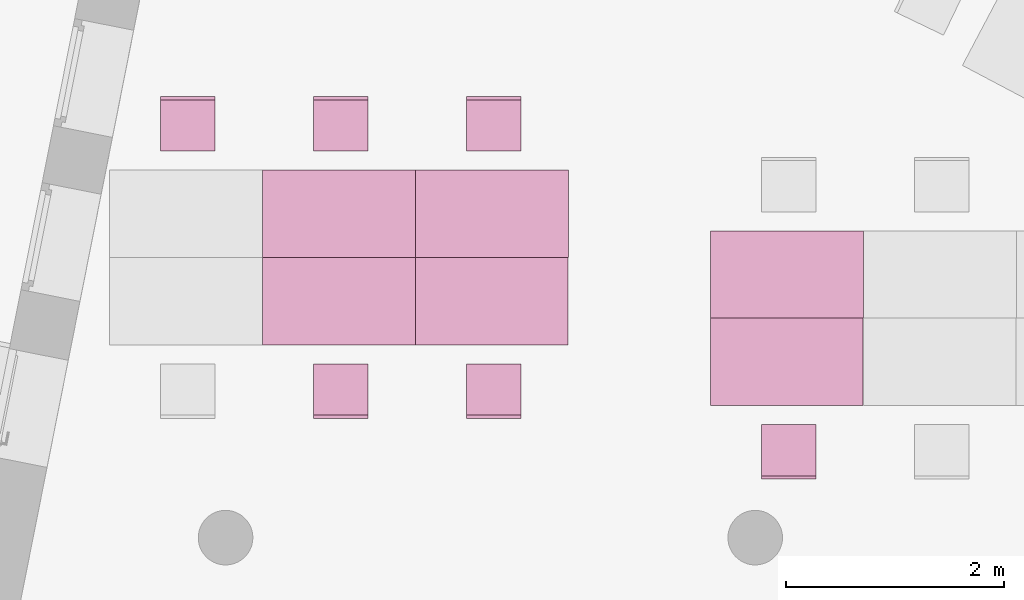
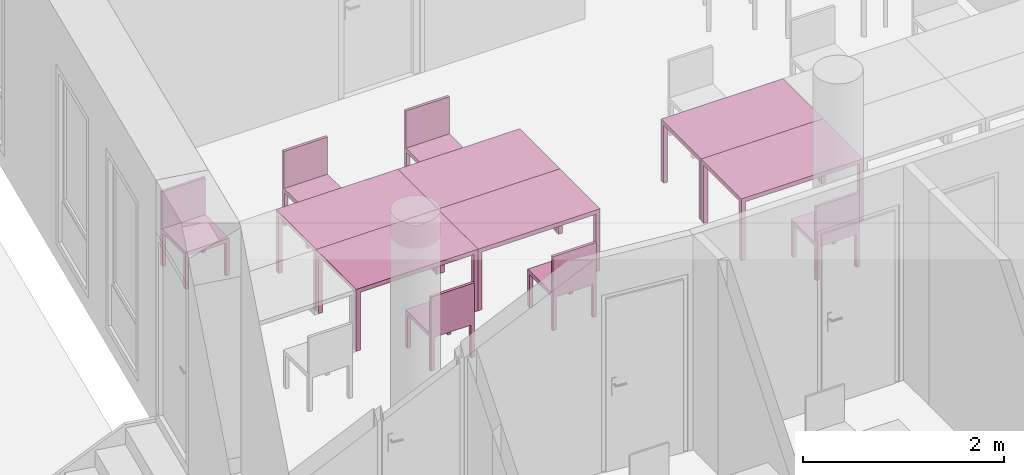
"""IFC4 building model written with IfcOpenShell, lengths in metres."""

from ifc_helpers import new_model, entity, si_unit, converted_unit, derived_unit, frame, origin, place, context, subcontext, project, spatial, faceted_brep, element, save


model = new_model("IFC4")

# Units and contexts
model_context = context("Model", 3, precision=1e-05, world=origin())
body_context = subcontext(model_context, "Body", "Model", "MODEL_VIEW")
ifc_project = project(units=[si_unit("LENGTHUNIT", "METRE"), si_unit("AREAUNIT", "SQUARE_METRE"), si_unit("VOLUMEUNIT", "CUBIC_METRE"), si_unit("MASSUNIT", "GRAM", prefix="KILO"), converted_unit("PLANEANGLEUNIT", "DEGREE", entity("IfcPlaneAngleMeasure", 0.0174532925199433), si_unit("PLANEANGLEUNIT", "RADIAN"), dimensions=[0, 0, 0, 0, 0, 0, 0]), derived_unit("THERMALTRANSMITTANCEUNIT", [(si_unit("POWERUNIT", "WATT"), 1), (si_unit("THERMODYNAMICTEMPERATUREUNIT", "KELVIN"), -1), (si_unit("LENGTHUNIT", "METRE"), -2)]), derived_unit("VOLUMETRICFLOWRATEUNIT", [(si_unit("LENGTHUNIT", "METRE"), 3), (converted_unit("TIMEUNIT", "hour", entity("IfcTimeMeasure", 3600.0), si_unit("TIMEUNIT", "SECOND"), dimensions=[0, 0, 1, 0, 0, 0, 0]), -1), (si_unit("LENGTHUNIT", "METRE"), -1)])], contexts=[model_context])

# Building, storeys
building_placement = place(None, origin())
building = spatial("IfcBuilding", under=ifc_project, at=building_placement, Name="HABITATGE PLURIFAMILIAR", CompositionType="ELEMENT")
storey_1_placement = place(building_placement, frame((0.0, 0.0, 6.25)))
storey_1 = spatial("IfcBuildingStorey", under=building, at=storey_1_placement, Name="PLANTA PRIMERA", CompositionType="ELEMENT", Elevation=6.25)
storey_2_placement = place(storey_1_placement, frame((0.0, 0.0, 3.35)))
storey_2 = spatial("IfcBuildingStorey", under=storey_1, at=storey_2_placement, Name="NOU", CompositionType="PARTIAL")

# Furniture
furniture_1_placement = place(storey_2_placement, frame((402.72705878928, 20.3649300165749, -3.35)))
element("IfcFurniture", 1, at=furniture_1_placement, inside=storey_2, Name="Taula 140X80_P1", context=body_context, shape_type="Brep", body=[
    faceted_brep([(1.40000000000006, 0.05, 0.0), (1.35357142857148, 0.05, 0.0), (1.35357142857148, 0.0, 0.0), (1.40000000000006, 0.0, 0.0), (1.40000000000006, 0.0, 0.7), (1.35357142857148, 0.0, 0.7), (1.35357142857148, 0.05, 0.7), (1.40000000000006, 0.05, 0.7)], [[[0, 1, 2, 3]], [[4, 5, 6, 7]], [[3, 4, 7, 0]], [[2, 5, 4, 3]], [[1, 6, 5, 2]], [[0, 7, 6, 1]]], orient=[[False], [False], [False], [False], [False], [False]]),
    faceted_brep([(1.40000000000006, 0.800069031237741, 0.0), (1.35357142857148, 0.800069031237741, 0.0), (1.35357142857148, 0.750069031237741, 0.0), (1.40000000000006, 0.750069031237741, 0.0), (1.40000000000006, 0.750069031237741, 0.7), (1.35357142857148, 0.750069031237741, 0.7), (1.35357142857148, 0.800069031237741, 0.7), (1.40000000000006, 0.800069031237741, 0.7)], [[[0, 1, 2, 3]], [[4, 5, 6, 7]], [[3, 4, 7, 0]], [[2, 5, 4, 3]], [[1, 6, 5, 2]], [[0, 7, 6, 1]]], orient=[[False], [False], [False], [False], [False], [False]]),
    faceted_brep([(1.4, 0.800069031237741, 0.7), (0.0, 0.800069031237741, 0.7), (0.0, 0.0, 0.7), (1.4, 0.0, 0.7), (1.4, 0.0, 0.75), (0.0, 0.0, 0.75), (0.0, 0.800069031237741, 0.75), (1.4, 0.800069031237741, 0.75)], [[[0, 1, 2, 3]], [[4, 5, 6, 7]], [[3, 4, 7, 0]], [[2, 5, 4, 3]], [[1, 6, 5, 2]], [[0, 7, 6, 1]]], orient=[[False], [False], [False], [False], [False], [False]]),
    faceted_brep([(0.0464285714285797, 0.05, 0.0), (0.0, 0.05, 0.0), (0.0, 0.0, 0.0), (0.0464285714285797, 0.0, 0.0), (0.0464285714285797, 0.0, 0.7), (0.0, 0.0, 0.7), (0.0, 0.05, 0.7), (0.0464285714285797, 0.05, 0.7)], [[[0, 1, 2, 3]], [[4, 5, 6, 7]], [[3, 4, 7, 0]], [[2, 5, 4, 3]], [[1, 6, 5, 2]], [[0, 7, 6, 1]]], orient=[[False], [False], [False], [False], [False], [False]]),
    faceted_brep([(0.0464285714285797, 0.800069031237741, 0.0), (0.0, 0.800069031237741, 0.0), (0.0, 0.750069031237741, 0.0), (0.0464285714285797, 0.750069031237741, 0.0), (0.0464285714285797, 0.750069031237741, 0.7), (0.0, 0.750069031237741, 0.7), (0.0, 0.800069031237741, 0.7), (0.0464285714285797, 0.800069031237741, 0.7)], [[[0, 1, 2, 3]], [[4, 5, 6, 7]], [[3, 4, 7, 0]], [[2, 5, 4, 3]], [[1, 6, 5, 2]], [[0, 7, 6, 1]]], orient=[[False], [False], [False], [False], [False], [False]]),
])
furniture_2_placement = place(storey_2_placement, frame((401.326989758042, 20.3649300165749, -3.35)))
element("IfcFurniture", 2, at=furniture_2_placement, inside=storey_2, Name="Taula 140X80_P1", context=body_context, shape_type="Brep", body=[
    faceted_brep([(1.40000000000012, 0.05, 0.0), (1.35357142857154, 0.05, 0.0), (1.35357142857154, 0.0, 0.0), (1.40000000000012, 0.0, 0.0), (1.40000000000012, 0.0, 0.7), (1.35357142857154, 0.0, 0.7), (1.35357142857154, 0.05, 0.7), (1.40000000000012, 0.05, 0.7)], [[[0, 1, 2, 3]], [[4, 5, 6, 7]], [[3, 4, 7, 0]], [[2, 5, 4, 3]], [[1, 6, 5, 2]], [[0, 7, 6, 1]]], orient=[[False], [False], [False], [False], [False], [False]]),
    faceted_brep([(1.40000000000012, 0.800069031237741, 0.0), (1.35357142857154, 0.800069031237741, 0.0), (1.35357142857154, 0.750069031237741, 0.0), (1.40000000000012, 0.750069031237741, 0.0), (1.40000000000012, 0.750069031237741, 0.7), (1.35357142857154, 0.750069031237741, 0.7), (1.35357142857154, 0.800069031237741, 0.7), (1.40000000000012, 0.800069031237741, 0.7)], [[[0, 1, 2, 3]], [[4, 5, 6, 7]], [[3, 4, 7, 0]], [[2, 5, 4, 3]], [[1, 6, 5, 2]], [[0, 7, 6, 1]]], orient=[[False], [False], [False], [False], [False], [False]]),
    faceted_brep([(1.40000000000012, 0.800069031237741, 0.7), (0.0, 0.800069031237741, 0.7), (0.0, 0.0, 0.7), (1.40000000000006, 0.0, 0.7), (1.40000000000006, 0.0, 0.75), (0.0, 0.0, 0.75), (0.0, 0.800069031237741, 0.75), (1.40000000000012, 0.800069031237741, 0.75)], [[[0, 1, 2, 3]], [[4, 5, 6, 7]], [[3, 4, 7, 0]], [[2, 5, 4, 3]], [[1, 6, 5, 2]], [[0, 7, 6, 1]]], orient=[[False], [False], [False], [False], [False], [False]]),
    faceted_brep([(0.046428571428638, 0.05, 0.0), (0.0, 0.05, 0.0), (0.0, 0.0, 0.0), (0.046428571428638, 0.0, 0.0), (0.046428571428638, 0.0, 0.7), (0.0, 0.0, 0.7), (0.0, 0.05, 0.7), (0.046428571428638, 0.05, 0.7)], [[[0, 1, 2, 3]], [[4, 5, 6, 7]], [[3, 4, 7, 0]], [[2, 5, 4, 3]], [[1, 6, 5, 2]], [[0, 7, 6, 1]]], orient=[[False], [False], [False], [False], [False], [False]]),
    faceted_brep([(0.046428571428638, 0.800069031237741, 0.0), (0.0, 0.800069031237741, 0.0), (0.0, 0.750069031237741, 0.0), (0.046428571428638, 0.750069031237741, 0.0), (0.046428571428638, 0.750069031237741, 0.7), (0.0, 0.750069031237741, 0.7), (0.0, 0.800069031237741, 0.7), (0.046428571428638, 0.800069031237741, 0.7)], [[[0, 1, 2, 3]], [[4, 5, 6, 7]], [[3, 4, 7, 0]], [[2, 5, 4, 3]], [[1, 6, 5, 2]], [[0, 7, 6, 1]]], orient=[[False], [False], [False], [False], [False], [False]]),
])
furniture_3_placement = place(storey_2_placement, frame((402.724838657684, 19.564860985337, -3.35)))
element("IfcFurniture", 3, at=furniture_3_placement, inside=storey_2, Name="Taula 140X80_P1", context=body_context, shape_type="Brep", body=[
    faceted_brep([(1.40000000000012, 0.05, 0.0), (1.35357142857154, 0.05, 0.0), (1.35357142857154, 0.0, 0.0), (1.40000000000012, 0.0, 0.0), (1.40000000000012, 0.0, 0.7), (1.35357142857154, 0.0, 0.7), (1.35357142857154, 0.05, 0.7), (1.40000000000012, 0.05, 0.7)], [[[0, 1, 2, 3]], [[4, 5, 6, 7]], [[3, 4, 7, 0]], [[2, 5, 4, 3]], [[1, 6, 5, 2]], [[0, 7, 6, 1]]], orient=[[False], [False], [False], [False], [False], [False]]),
    faceted_brep([(1.40000000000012, 0.800069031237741, 0.0), (1.35357142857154, 0.800069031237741, 0.0), (1.35357142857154, 0.750069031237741, 0.0), (1.40000000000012, 0.750069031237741, 0.0), (1.40000000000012, 0.750069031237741, 0.7), (1.35357142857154, 0.750069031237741, 0.7), (1.35357142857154, 0.800069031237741, 0.7), (1.40000000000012, 0.800069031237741, 0.7)], [[[0, 1, 2, 3]], [[4, 5, 6, 7]], [[3, 4, 7, 0]], [[2, 5, 4, 3]], [[1, 6, 5, 2]], [[0, 7, 6, 1]]], orient=[[False], [False], [False], [False], [False], [False]]),
    faceted_brep([(1.40000000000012, 0.800069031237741, 0.7), (0.0, 0.800069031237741, 0.7), (0.0, 0.0, 0.7), (1.40000000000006, 0.0, 0.7), (1.40000000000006, 0.0, 0.75), (0.0, 0.0, 0.75), (0.0, 0.800069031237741, 0.75), (1.40000000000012, 0.800069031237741, 0.75)], [[[0, 1, 2, 3]], [[4, 5, 6, 7]], [[3, 4, 7, 0]], [[2, 5, 4, 3]], [[1, 6, 5, 2]], [[0, 7, 6, 1]]], orient=[[False], [False], [False], [False], [False], [False]]),
    faceted_brep([(0.046428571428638, 0.05, 0.0), (0.0, 0.05, 0.0), (0.0, 0.0, 0.0), (0.046428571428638, 0.0, 0.0), (0.046428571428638, 0.0, 0.7), (0.0, 0.0, 0.7), (0.0, 0.05, 0.7), (0.046428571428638, 0.05, 0.7)], [[[0, 1, 2, 3]], [[4, 5, 6, 7]], [[3, 4, 7, 0]], [[2, 5, 4, 3]], [[1, 6, 5, 2]], [[0, 7, 6, 1]]], orient=[[False], [False], [False], [False], [False], [False]]),
    faceted_brep([(0.046428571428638, 0.800069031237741, 0.0), (0.0, 0.800069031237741, 0.0), (0.0, 0.750069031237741, 0.0), (0.046428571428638, 0.750069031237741, 0.0), (0.046428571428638, 0.750069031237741, 0.7), (0.0, 0.750069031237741, 0.7), (0.0, 0.800069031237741, 0.7), (0.046428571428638, 0.800069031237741, 0.7)], [[[0, 1, 2, 3]], [[4, 5, 6, 7]], [[3, 4, 7, 0]], [[2, 5, 4, 3]], [[1, 6, 5, 2]], [[0, 7, 6, 1]]], orient=[[False], [False], [False], [False], [False], [False]]),
])
furniture_4_placement = place(storey_2_placement, frame((401.324769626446, 19.564860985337, -3.35)))
element("IfcFurniture", 4, at=furniture_4_placement, inside=storey_2, Name="Taula 140X80_P1", context=body_context, shape_type="Brep", body=[
    faceted_brep([(1.40000000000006, 0.05, 0.0), (1.35357142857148, 0.05, 0.0), (1.35357142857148, 0.0, 0.0), (1.40000000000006, 0.0, 0.0), (1.40000000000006, 0.0, 0.7), (1.35357142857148, 0.0, 0.7), (1.35357142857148, 0.05, 0.7), (1.40000000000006, 0.05, 0.7)], [[[0, 1, 2, 3]], [[4, 5, 6, 7]], [[3, 4, 7, 0]], [[2, 5, 4, 3]], [[1, 6, 5, 2]], [[0, 7, 6, 1]]], orient=[[False], [False], [False], [False], [False], [False]]),
    faceted_brep([(1.40000000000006, 0.800069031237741, 0.0), (1.35357142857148, 0.800069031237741, 0.0), (1.35357142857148, 0.750069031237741, 0.0), (1.40000000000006, 0.750069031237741, 0.0), (1.40000000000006, 0.750069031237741, 0.7), (1.35357142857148, 0.750069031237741, 0.7), (1.35357142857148, 0.800069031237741, 0.7), (1.40000000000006, 0.800069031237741, 0.7)], [[[0, 1, 2, 3]], [[4, 5, 6, 7]], [[3, 4, 7, 0]], [[2, 5, 4, 3]], [[1, 6, 5, 2]], [[0, 7, 6, 1]]], orient=[[False], [False], [False], [False], [False], [False]]),
    faceted_brep([(1.4, 0.800069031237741, 0.7), (0.0, 0.800069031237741, 0.7), (0.0, 0.0, 0.7), (1.4, 0.0, 0.7), (1.4, 0.0, 0.75), (0.0, 0.0, 0.75), (0.0, 0.800069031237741, 0.75), (1.4, 0.800069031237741, 0.75)], [[[0, 1, 2, 3]], [[4, 5, 6, 7]], [[3, 4, 7, 0]], [[2, 5, 4, 3]], [[1, 6, 5, 2]], [[0, 7, 6, 1]]], orient=[[False], [False], [False], [False], [False], [False]]),
    faceted_brep([(0.0464285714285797, 0.05, 0.0), (0.0, 0.05, 0.0), (0.0, 0.0, 0.0), (0.0464285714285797, 0.0, 0.0), (0.0464285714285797, 0.0, 0.7), (0.0, 0.0, 0.7), (0.0, 0.05, 0.7), (0.0464285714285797, 0.05, 0.7)], [[[0, 1, 2, 3]], [[4, 5, 6, 7]], [[3, 4, 7, 0]], [[2, 5, 4, 3]], [[1, 6, 5, 2]], [[0, 7, 6, 1]]], orient=[[False], [False], [False], [False], [False], [False]]),
    faceted_brep([(0.0464285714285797, 0.800069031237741, 0.0), (0.0, 0.800069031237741, 0.0), (0.0, 0.750069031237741, 0.0), (0.0464285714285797, 0.750069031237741, 0.0), (0.0464285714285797, 0.750069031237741, 0.7), (0.0, 0.750069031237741, 0.7), (0.0, 0.800069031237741, 0.7), (0.0464285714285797, 0.800069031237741, 0.7)], [[[0, 1, 2, 3]], [[4, 5, 6, 7]], [[3, 4, 7, 0]], [[2, 5, 4, 3]], [[1, 6, 5, 2]], [[0, 7, 6, 1]]], orient=[[False], [False], [False], [False], [False], [False]]),
])
furniture_5_placement = place(storey_2_placement, frame((405.425736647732, 19.0086552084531, -3.35)))
element("IfcFurniture", 5, at=furniture_5_placement, inside=storey_2, Name="Taula 140X80_P1", context=body_context, shape_type="Brep", body=[
    faceted_brep([(1.40000000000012, 0.05, 0.0), (1.35357142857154, 0.05, 0.0), (1.35357142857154, 0.0, 0.0), (1.40000000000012, 0.0, 0.0), (1.40000000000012, 0.0, 0.7), (1.35357142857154, 0.0, 0.7), (1.35357142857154, 0.05, 0.7), (1.40000000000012, 0.05, 0.7)], [[[0, 1, 2, 3]], [[4, 5, 6, 7]], [[3, 4, 7, 0]], [[2, 5, 4, 3]], [[1, 6, 5, 2]], [[0, 7, 6, 1]]], orient=[[False], [False], [False], [False], [False], [False]]),
    faceted_brep([(1.40000000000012, 0.800069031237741, 0.0), (1.35357142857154, 0.800069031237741, 0.0), (1.35357142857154, 0.750069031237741, 0.0), (1.40000000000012, 0.750069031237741, 0.0), (1.40000000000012, 0.750069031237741, 0.7), (1.35357142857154, 0.750069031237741, 0.7), (1.35357142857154, 0.800069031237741, 0.7), (1.40000000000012, 0.800069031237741, 0.7)], [[[0, 1, 2, 3]], [[4, 5, 6, 7]], [[3, 4, 7, 0]], [[2, 5, 4, 3]], [[1, 6, 5, 2]], [[0, 7, 6, 1]]], orient=[[False], [False], [False], [False], [False], [False]]),
    faceted_brep([(1.40000000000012, 0.800069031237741, 0.7), (0.0, 0.800069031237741, 0.7), (0.0, 0.0, 0.7), (1.40000000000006, 0.0, 0.7), (1.40000000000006, 0.0, 0.75), (0.0, 0.0, 0.75), (0.0, 0.800069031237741, 0.75), (1.40000000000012, 0.800069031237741, 0.75)], [[[0, 1, 2, 3]], [[4, 5, 6, 7]], [[3, 4, 7, 0]], [[2, 5, 4, 3]], [[1, 6, 5, 2]], [[0, 7, 6, 1]]], orient=[[False], [False], [False], [False], [False], [False]]),
    faceted_brep([(0.046428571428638, 0.05, 0.0), (0.0, 0.05, 0.0), (0.0, 0.0, 0.0), (0.046428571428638, 0.0, 0.0), (0.046428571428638, 0.0, 0.7), (0.0, 0.0, 0.7), (0.0, 0.05, 0.7), (0.046428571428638, 0.05, 0.7)], [[[0, 1, 2, 3]], [[4, 5, 6, 7]], [[3, 4, 7, 0]], [[2, 5, 4, 3]], [[1, 6, 5, 2]], [[0, 7, 6, 1]]], orient=[[False], [False], [False], [False], [False], [False]]),
    faceted_brep([(0.046428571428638, 0.800069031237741, 0.0), (0.0, 0.800069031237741, 0.0), (0.0, 0.750069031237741, 0.0), (0.046428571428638, 0.750069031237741, 0.0), (0.046428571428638, 0.750069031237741, 0.7), (0.0, 0.750069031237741, 0.7), (0.0, 0.800069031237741, 0.7), (0.046428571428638, 0.800069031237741, 0.7)], [[[0, 1, 2, 3]], [[4, 5, 6, 7]], [[3, 4, 7, 0]], [[2, 5, 4, 3]], [[1, 6, 5, 2]], [[0, 7, 6, 1]]], orient=[[False], [False], [False], [False], [False], [False]]),
])
furniture_6_placement = place(storey_2_placement, frame((405.427956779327, 19.808724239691, -3.35)))
element("IfcFurniture", 6, at=furniture_6_placement, inside=storey_2, Name="Taula 140X80_P1", context=body_context, shape_type="Brep", body=[
    faceted_brep([(1.40000000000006, 0.05, 0.0), (1.35357142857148, 0.05, 0.0), (1.35357142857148, 0.0, 0.0), (1.40000000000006, 0.0, 0.0), (1.40000000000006, 0.0, 0.7), (1.35357142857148, 0.0, 0.7), (1.35357142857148, 0.05, 0.7), (1.40000000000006, 0.05, 0.7)], [[[0, 1, 2, 3]], [[4, 5, 6, 7]], [[3, 4, 7, 0]], [[2, 5, 4, 3]], [[1, 6, 5, 2]], [[0, 7, 6, 1]]], orient=[[False], [False], [False], [False], [False], [False]]),
    faceted_brep([(1.40000000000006, 0.800069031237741, 0.0), (1.35357142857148, 0.800069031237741, 0.0), (1.35357142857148, 0.750069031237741, 0.0), (1.40000000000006, 0.750069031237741, 0.0), (1.40000000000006, 0.750069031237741, 0.7), (1.35357142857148, 0.750069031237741, 0.7), (1.35357142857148, 0.800069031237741, 0.7), (1.40000000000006, 0.800069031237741, 0.7)], [[[0, 1, 2, 3]], [[4, 5, 6, 7]], [[3, 4, 7, 0]], [[2, 5, 4, 3]], [[1, 6, 5, 2]], [[0, 7, 6, 1]]], orient=[[False], [False], [False], [False], [False], [False]]),
    faceted_brep([(1.4, 0.800069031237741, 0.7), (0.0, 0.800069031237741, 0.7), (0.0, 0.0, 0.7), (1.4, 0.0, 0.7), (1.4, 0.0, 0.75), (0.0, 0.0, 0.75), (0.0, 0.800069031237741, 0.75), (1.4, 0.800069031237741, 0.75)], [[[0, 1, 2, 3]], [[4, 5, 6, 7]], [[3, 4, 7, 0]], [[2, 5, 4, 3]], [[1, 6, 5, 2]], [[0, 7, 6, 1]]], orient=[[False], [False], [False], [False], [False], [False]]),
    faceted_brep([(0.0464285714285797, 0.05, 0.0), (0.0, 0.05, 0.0), (0.0, 0.0, 0.0), (0.0464285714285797, 0.0, 0.0), (0.0464285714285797, 0.0, 0.7), (0.0, 0.0, 0.7), (0.0, 0.05, 0.7), (0.0464285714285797, 0.05, 0.7)], [[[0, 1, 2, 3]], [[4, 5, 6, 7]], [[3, 4, 7, 0]], [[2, 5, 4, 3]], [[1, 6, 5, 2]], [[0, 7, 6, 1]]], orient=[[False], [False], [False], [False], [False], [False]]),
    faceted_brep([(0.0464285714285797, 0.800069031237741, 0.0), (0.0, 0.800069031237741, 0.0), (0.0, 0.750069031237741, 0.0), (0.0464285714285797, 0.750069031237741, 0.0), (0.0464285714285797, 0.750069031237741, 0.7), (0.0, 0.750069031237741, 0.7), (0.0, 0.800069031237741, 0.7), (0.0464285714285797, 0.800069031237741, 0.7)], [[[0, 1, 2, 3]], [[4, 5, 6, 7]], [[3, 4, 7, 0]], [[2, 5, 4, 3]], [[1, 6, 5, 2]], [[0, 7, 6, 1]]], orient=[[False], [False], [False], [False], [False], [False]]),
])
furniture_7_placement = place(storey_2_placement, frame((401.791761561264, 18.8909073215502, -3.34942958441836)))
element("IfcFurniture", 7, at=furniture_7_placement, inside=storey_2, Name="Cadira d'Oficina_P1", context=body_context, shape_type="Brep", body=[
    faceted_brep([(0.5, 0.5, 0.4), (0.0, 0.5, 0.4), (0.0, 0.0, 0.4), (0.5, 0.0, 0.4), (0.5, 0.0, 0.45), (0.0, 0.0, 0.45), (0.0, 0.5, 0.45), (0.5, 0.5, 0.45)], [[[0, 1, 2, 3]], [[4, 5, 6, 7]], [[3, 4, 7, 0]], [[2, 5, 4, 3]], [[1, 6, 5, 2]], [[0, 7, 6, 1]]], orient=[[False], [False], [False], [False], [False], [False]]),
    faceted_brep([(0.0, 0.04, 0.0), (0.0, 0.0, 0.0), (0.04, 0.0, 0.0), (0.04, 0.04, 0.0), (0.04, 0.04, 0.4), (0.04, 0.0, 0.4), (0.0, 0.0, 0.4), (0.0, 0.04, 0.4)], [[[0, 1, 2, 3]], [[4, 5, 6, 7]], [[3, 4, 7, 0]], [[2, 5, 4, 3]], [[1, 6, 5, 2]], [[0, 7, 6, 1]]], orient=[[False], [False], [False], [False], [False], [False]]),
    faceted_brep([(0.0, 0.5, 0.0), (0.0, 0.46, 0.0), (0.04, 0.46, 0.0), (0.04, 0.5, 0.0), (0.04, 0.5, 0.4), (0.04, 0.46, 0.4), (0.0, 0.46, 0.4), (0.0, 0.5, 0.4)], [[[0, 1, 2, 3]], [[4, 5, 6, 7]], [[3, 4, 7, 0]], [[2, 5, 4, 3]], [[1, 6, 5, 2]], [[0, 7, 6, 1]]], orient=[[False], [False], [False], [False], [False], [False]]),
    faceted_brep([(0.46, 0.04, 0.0), (0.46, 0.0, 0.0), (0.5, 0.0, 0.0), (0.5, 0.04, 0.0), (0.5, 0.04, 0.4), (0.5, 0.0, 0.4), (0.46, 0.0, 0.4), (0.46, 0.04, 0.4)], [[[0, 1, 2, 3]], [[4, 5, 6, 7]], [[3, 4, 7, 0]], [[2, 5, 4, 3]], [[1, 6, 5, 2]], [[0, 7, 6, 1]]], orient=[[False], [False], [False], [False], [False], [False]]),
    faceted_brep([(0.46, 0.5, 0.0), (0.46, 0.46, 0.0), (0.5, 0.46, 0.0), (0.5, 0.5, 0.0), (0.5, 0.5, 0.4), (0.5, 0.46, 0.4), (0.46, 0.46, 0.4), (0.46, 0.5, 0.4)], [[[0, 1, 2, 3]], [[4, 5, 6, 7]], [[3, 4, 7, 0]], [[2, 5, 4, 3]], [[1, 6, 5, 2]], [[0, 7, 6, 1]]], orient=[[False], [False], [False], [False], [False], [False]]),
    faceted_brep([(0.0, 0.03, 0.45), (0.0, 0.0, 0.45), (0.5, 0.0, 0.45), (0.5, 0.03, 0.45), (0.5, 0.03, 0.9), (0.5, 0.0, 0.9), (0.0, 0.0, 0.9), (0.0, 0.03, 0.9)], [[[0, 1, 2, 3]], [[4, 5, 6, 7]], [[3, 4, 7, 0]], [[2, 5, 4, 3]], [[1, 6, 5, 2]], [[0, 7, 6, 1]]], orient=[[False], [False], [False], [False], [False], [False]]),
])
furniture_8_placement = place(storey_2_placement, frame((400.391761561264, 21.3389527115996, -3.34942958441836)))
element("IfcFurniture", 8, at=furniture_8_placement, inside=storey_2, Name="Cadira d'Oficina_P1", context=body_context, shape_type="Brep", body=[
    faceted_brep([(0.5, 0.0, 0.4), (0.5, 0.5, 0.4), (0.0, 0.5, 0.4), (0.0, 0.0, 0.4), (0.5, 0.5, 0.45), (0.5, 0.0, 0.45), (0.0, 0.0, 0.45), (0.0, 0.5, 0.45)], [[[0, 1, 2, 3]], [[4, 5, 6, 7]], [[1, 0, 5, 4]], [[2, 1, 4, 7]], [[3, 2, 7, 6]], [[0, 3, 6, 5]]], orient=[[False], [False], [False], [False], [False], [False]]),
    faceted_brep([(0.0, 0.46, 0.0), (0.04, 0.46, 0.0), (0.04, 0.5, 0.0), (0.0, 0.5, 0.0), (0.04, 0.46, 0.4), (0.0, 0.46, 0.4), (0.0, 0.5, 0.4), (0.04, 0.5, 0.4)], [[[0, 1, 2, 3]], [[4, 5, 6, 7]], [[1, 0, 5, 4]], [[2, 1, 4, 7]], [[3, 2, 7, 6]], [[0, 3, 6, 5]]], orient=[[False], [False], [False], [False], [False], [False]]),
    faceted_brep([(0.0, 0.0, 0.0), (0.04, 0.0, 0.0), (0.04, 0.04, 0.0), (0.0, 0.04, 0.0), (0.04, 0.0, 0.4), (0.0, 0.0, 0.4), (0.0, 0.04, 0.4), (0.04, 0.04, 0.4)], [[[0, 1, 2, 3]], [[4, 5, 6, 7]], [[1, 0, 5, 4]], [[2, 1, 4, 7]], [[3, 2, 7, 6]], [[0, 3, 6, 5]]], orient=[[False], [False], [False], [False], [False], [False]]),
    faceted_brep([(0.46, 0.46, 0.0), (0.5, 0.46, 0.0), (0.5, 0.5, 0.0), (0.46, 0.5, 0.0), (0.5, 0.46, 0.4), (0.46, 0.46, 0.4), (0.46, 0.5, 0.4), (0.5, 0.5, 0.4)], [[[0, 1, 2, 3]], [[4, 5, 6, 7]], [[1, 0, 5, 4]], [[2, 1, 4, 7]], [[3, 2, 7, 6]], [[0, 3, 6, 5]]], orient=[[False], [False], [False], [False], [False], [False]]),
    faceted_brep([(0.46, 0.0, 0.0), (0.5, 0.0, 0.0), (0.5, 0.04, 0.0), (0.46, 0.04, 0.0), (0.5, 0.0, 0.4), (0.46, 0.0, 0.4), (0.46, 0.04, 0.4), (0.5, 0.04, 0.4)], [[[0, 1, 2, 3]], [[4, 5, 6, 7]], [[1, 0, 5, 4]], [[2, 1, 4, 7]], [[3, 2, 7, 6]], [[0, 3, 6, 5]]], orient=[[False], [False], [False], [False], [False], [False]]),
    faceted_brep([(0.0, 0.47, 0.45), (0.5, 0.47, 0.45), (0.5, 0.5, 0.45), (0.0, 0.5, 0.45), (0.5, 0.47, 0.9), (0.0, 0.47, 0.9), (0.0, 0.5, 0.9), (0.5, 0.5, 0.9)], [[[0, 1, 2, 3]], [[4, 5, 6, 7]], [[1, 0, 5, 4]], [[2, 1, 4, 7]], [[3, 2, 7, 6]], [[0, 3, 6, 5]]], orient=[[False], [False], [False], [False], [False], [False]]),
])
furniture_9_placement = place(storey_2_placement, frame((401.791761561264, 21.3389527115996, -3.34942958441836)))
element("IfcFurniture", 9, at=furniture_9_placement, inside=storey_2, Name="Cadira d'Oficina_P1", context=body_context, shape_type="Brep", body=[
    faceted_brep([(0.5, 0.0, 0.4), (0.5, 0.5, 0.4), (0.0, 0.5, 0.4), (0.0, 0.0, 0.4), (0.5, 0.5, 0.45), (0.5, 0.0, 0.45), (0.0, 0.0, 0.45), (0.0, 0.5, 0.45)], [[[0, 1, 2, 3]], [[4, 5, 6, 7]], [[1, 0, 5, 4]], [[2, 1, 4, 7]], [[3, 2, 7, 6]], [[0, 3, 6, 5]]], orient=[[False], [False], [False], [False], [False], [False]]),
    faceted_brep([(0.0, 0.46, 0.0), (0.04, 0.46, 0.0), (0.04, 0.5, 0.0), (0.0, 0.5, 0.0), (0.04, 0.46, 0.4), (0.0, 0.46, 0.4), (0.0, 0.5, 0.4), (0.04, 0.5, 0.4)], [[[0, 1, 2, 3]], [[4, 5, 6, 7]], [[1, 0, 5, 4]], [[2, 1, 4, 7]], [[3, 2, 7, 6]], [[0, 3, 6, 5]]], orient=[[False], [False], [False], [False], [False], [False]]),
    faceted_brep([(0.0, 0.0, 0.0), (0.04, 0.0, 0.0), (0.04, 0.04, 0.0), (0.0, 0.04, 0.0), (0.04, 0.0, 0.4), (0.0, 0.0, 0.4), (0.0, 0.04, 0.4), (0.04, 0.04, 0.4)], [[[0, 1, 2, 3]], [[4, 5, 6, 7]], [[1, 0, 5, 4]], [[2, 1, 4, 7]], [[3, 2, 7, 6]], [[0, 3, 6, 5]]], orient=[[False], [False], [False], [False], [False], [False]]),
    faceted_brep([(0.46, 0.46, 0.0), (0.5, 0.46, 0.0), (0.5, 0.5, 0.0), (0.46, 0.5, 0.0), (0.5, 0.46, 0.4), (0.46, 0.46, 0.4), (0.46, 0.5, 0.4), (0.5, 0.5, 0.4)], [[[0, 1, 2, 3]], [[4, 5, 6, 7]], [[1, 0, 5, 4]], [[2, 1, 4, 7]], [[3, 2, 7, 6]], [[0, 3, 6, 5]]], orient=[[False], [False], [False], [False], [False], [False]]),
    faceted_brep([(0.46, 0.0, 0.0), (0.5, 0.0, 0.0), (0.5, 0.04, 0.0), (0.46, 0.04, 0.0), (0.5, 0.0, 0.4), (0.46, 0.0, 0.4), (0.46, 0.04, 0.4), (0.5, 0.04, 0.4)], [[[0, 1, 2, 3]], [[4, 5, 6, 7]], [[1, 0, 5, 4]], [[2, 1, 4, 7]], [[3, 2, 7, 6]], [[0, 3, 6, 5]]], orient=[[False], [False], [False], [False], [False], [False]]),
    faceted_brep([(0.0, 0.47, 0.45), (0.5, 0.47, 0.45), (0.5, 0.5, 0.45), (0.0, 0.5, 0.45), (0.5, 0.47, 0.9), (0.0, 0.47, 0.9), (0.0, 0.5, 0.9), (0.5, 0.5, 0.9)], [[[0, 1, 2, 3]], [[4, 5, 6, 7]], [[1, 0, 5, 4]], [[2, 1, 4, 7]], [[3, 2, 7, 6]], [[0, 3, 6, 5]]], orient=[[False], [False], [False], [False], [False], [False]]),
])
furniture_10_placement = place(storey_2_placement, frame((403.191761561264, 21.3389527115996, -3.34942958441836)))
element("IfcFurniture", 10, at=furniture_10_placement, inside=storey_2, Name="Cadira d'Oficina_P1", context=body_context, shape_type="Brep", body=[
    faceted_brep([(0.5, 0.0, 0.4), (0.5, 0.500000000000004, 0.4), (0.0, 0.500000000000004, 0.4), (0.0, 0.0, 0.4), (0.5, 0.500000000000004, 0.45), (0.5, 0.0, 0.45), (0.0, 0.0, 0.45), (0.0, 0.500000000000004, 0.45)], [[[0, 1, 2, 3]], [[4, 5, 6, 7]], [[1, 0, 5, 4]], [[2, 1, 4, 7]], [[3, 2, 7, 6]], [[0, 3, 6, 5]]], orient=[[False], [False], [False], [False], [False], [False]]),
    faceted_brep([(0.0, 0.460000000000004, 0.0), (0.04, 0.460000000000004, 0.0), (0.04, 0.500000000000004, 0.0), (0.0, 0.500000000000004, 0.0), (0.04, 0.460000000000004, 0.4), (0.0, 0.460000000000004, 0.4), (0.0, 0.500000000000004, 0.4), (0.04, 0.500000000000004, 0.4)], [[[0, 1, 2, 3]], [[4, 5, 6, 7]], [[1, 0, 5, 4]], [[2, 1, 4, 7]], [[3, 2, 7, 6]], [[0, 3, 6, 5]]], orient=[[False], [False], [False], [False], [False], [False]]),
    faceted_brep([(0.0, 0.0, 0.0), (0.04, 0.0, 0.0), (0.04, 0.04, 0.0), (0.0, 0.04, 0.0), (0.04, 0.0, 0.4), (0.0, 0.0, 0.4), (0.0, 0.04, 0.4), (0.04, 0.04, 0.4)], [[[0, 1, 2, 3]], [[4, 5, 6, 7]], [[1, 0, 5, 4]], [[2, 1, 4, 7]], [[3, 2, 7, 6]], [[0, 3, 6, 5]]], orient=[[False], [False], [False], [False], [False], [False]]),
    faceted_brep([(0.46, 0.460000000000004, 0.0), (0.5, 0.460000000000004, 0.0), (0.5, 0.500000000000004, 0.0), (0.46, 0.500000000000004, 0.0), (0.5, 0.460000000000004, 0.4), (0.46, 0.460000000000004, 0.4), (0.46, 0.500000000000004, 0.4), (0.5, 0.500000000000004, 0.4)], [[[0, 1, 2, 3]], [[4, 5, 6, 7]], [[1, 0, 5, 4]], [[2, 1, 4, 7]], [[3, 2, 7, 6]], [[0, 3, 6, 5]]], orient=[[False], [False], [False], [False], [False], [False]]),
    faceted_brep([(0.46, 0.0, 0.0), (0.5, 0.0, 0.0), (0.5, 0.04, 0.0), (0.46, 0.04, 0.0), (0.5, 0.0, 0.4), (0.46, 0.0, 0.4), (0.46, 0.04, 0.4), (0.5, 0.04, 0.4)], [[[0, 1, 2, 3]], [[4, 5, 6, 7]], [[1, 0, 5, 4]], [[2, 1, 4, 7]], [[3, 2, 7, 6]], [[0, 3, 6, 5]]], orient=[[False], [False], [False], [False], [False], [False]]),
    faceted_brep([(0.0, 0.470000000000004, 0.45), (0.5, 0.470000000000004, 0.45), (0.5, 0.500000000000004, 0.45), (0.0, 0.500000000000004, 0.45), (0.5, 0.470000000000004, 0.9), (0.0, 0.470000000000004, 0.9), (0.0, 0.500000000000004, 0.9), (0.5, 0.500000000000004, 0.9)], [[[0, 1, 2, 3]], [[4, 5, 6, 7]], [[1, 0, 5, 4]], [[2, 1, 4, 7]], [[3, 2, 7, 6]], [[0, 3, 6, 5]]], orient=[[False], [False], [False], [False], [False], [False]]),
])
furniture_11_placement = place(storey_2_placement, frame((403.191761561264, 18.8909073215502, -3.34942958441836)))
element("IfcFurniture", 11, at=furniture_11_placement, inside=storey_2, Name="Cadira d'Oficina_P1", context=body_context, shape_type="Brep", body=[
    faceted_brep([(0.5, 0.500000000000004, 0.4), (0.0, 0.500000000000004, 0.4), (0.0, 0.0, 0.4), (0.5, 0.0, 0.4), (0.5, 0.0, 0.45), (0.0, 0.0, 0.45), (0.0, 0.500000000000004, 0.45), (0.5, 0.500000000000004, 0.45)], [[[0, 1, 2, 3]], [[4, 5, 6, 7]], [[3, 4, 7, 0]], [[2, 5, 4, 3]], [[1, 6, 5, 2]], [[0, 7, 6, 1]]], orient=[[False], [False], [False], [False], [False], [False]]),
    faceted_brep([(0.0, 0.04, 0.0), (0.0, 0.0, 0.0), (0.04, 0.0, 0.0), (0.04, 0.04, 0.0), (0.04, 0.04, 0.4), (0.04, 0.0, 0.4), (0.0, 0.0, 0.4), (0.0, 0.04, 0.4)], [[[0, 1, 2, 3]], [[4, 5, 6, 7]], [[3, 4, 7, 0]], [[2, 5, 4, 3]], [[1, 6, 5, 2]], [[0, 7, 6, 1]]], orient=[[False], [False], [False], [False], [False], [False]]),
    faceted_brep([(0.0, 0.500000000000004, 0.0), (0.0, 0.460000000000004, 0.0), (0.04, 0.460000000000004, 0.0), (0.04, 0.500000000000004, 0.0), (0.04, 0.500000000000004, 0.4), (0.04, 0.460000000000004, 0.4), (0.0, 0.460000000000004, 0.4), (0.0, 0.500000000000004, 0.4)], [[[0, 1, 2, 3]], [[4, 5, 6, 7]], [[3, 4, 7, 0]], [[2, 5, 4, 3]], [[1, 6, 5, 2]], [[0, 7, 6, 1]]], orient=[[False], [False], [False], [False], [False], [False]]),
    faceted_brep([(0.46, 0.04, 0.0), (0.46, 0.0, 0.0), (0.5, 0.0, 0.0), (0.5, 0.04, 0.0), (0.5, 0.04, 0.4), (0.5, 0.0, 0.4), (0.46, 0.0, 0.4), (0.46, 0.04, 0.4)], [[[0, 1, 2, 3]], [[4, 5, 6, 7]], [[3, 4, 7, 0]], [[2, 5, 4, 3]], [[1, 6, 5, 2]], [[0, 7, 6, 1]]], orient=[[False], [False], [False], [False], [False], [False]]),
    faceted_brep([(0.46, 0.500000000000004, 0.0), (0.46, 0.460000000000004, 0.0), (0.5, 0.460000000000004, 0.0), (0.5, 0.500000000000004, 0.0), (0.5, 0.500000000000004, 0.4), (0.5, 0.460000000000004, 0.4), (0.46, 0.460000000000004, 0.4), (0.46, 0.500000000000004, 0.4)], [[[0, 1, 2, 3]], [[4, 5, 6, 7]], [[3, 4, 7, 0]], [[2, 5, 4, 3]], [[1, 6, 5, 2]], [[0, 7, 6, 1]]], orient=[[False], [False], [False], [False], [False], [False]]),
    faceted_brep([(0.0, 0.03, 0.45), (0.0, 0.0, 0.45), (0.5, 0.0, 0.45), (0.5, 0.03, 0.45), (0.5, 0.03, 0.9), (0.5, 0.0, 0.9), (0.0, 0.0, 0.9), (0.0, 0.03, 0.9)], [[[0, 1, 2, 3]], [[4, 5, 6, 7]], [[3, 4, 7, 0]], [[2, 5, 4, 3]], [[1, 6, 5, 2]], [[0, 7, 6, 1]]], orient=[[False], [False], [False], [False], [False], [False]]),
])
furniture_12_placement = place(storey_2_placement, frame((405.893907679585, 18.3347015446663, -3.34942958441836)))
element("IfcFurniture", 12, at=furniture_12_placement, inside=storey_2, Name="Cadira d'Oficina_P1", context=body_context, shape_type="Brep", body=[
    faceted_brep([(0.5, 0.5, 0.4), (0.0, 0.5, 0.4), (0.0, 0.0, 0.4), (0.5, 0.0, 0.4), (0.5, 0.0, 0.45), (0.0, 0.0, 0.45), (0.0, 0.5, 0.45), (0.5, 0.5, 0.45)], [[[0, 1, 2, 3]], [[4, 5, 6, 7]], [[3, 4, 7, 0]], [[2, 5, 4, 3]], [[1, 6, 5, 2]], [[0, 7, 6, 1]]], orient=[[False], [False], [False], [False], [False], [False]]),
    faceted_brep([(0.0, 0.04, 0.0), (0.0, 0.0, 0.0), (0.04, 0.0, 0.0), (0.04, 0.04, 0.0), (0.04, 0.04, 0.4), (0.04, 0.0, 0.4), (0.0, 0.0, 0.4), (0.0, 0.04, 0.4)], [[[0, 1, 2, 3]], [[4, 5, 6, 7]], [[3, 4, 7, 0]], [[2, 5, 4, 3]], [[1, 6, 5, 2]], [[0, 7, 6, 1]]], orient=[[False], [False], [False], [False], [False], [False]]),
    faceted_brep([(0.0, 0.5, 0.0), (0.0, 0.46, 0.0), (0.04, 0.46, 0.0), (0.04, 0.5, 0.0), (0.04, 0.5, 0.4), (0.04, 0.46, 0.4), (0.0, 0.46, 0.4), (0.0, 0.5, 0.4)], [[[0, 1, 2, 3]], [[4, 5, 6, 7]], [[3, 4, 7, 0]], [[2, 5, 4, 3]], [[1, 6, 5, 2]], [[0, 7, 6, 1]]], orient=[[False], [False], [False], [False], [False], [False]]),
    faceted_brep([(0.46, 0.04, 0.0), (0.46, 0.0, 0.0), (0.5, 0.0, 0.0), (0.5, 0.04, 0.0), (0.5, 0.04, 0.4), (0.5, 0.0, 0.4), (0.46, 0.0, 0.4), (0.46, 0.04, 0.4)], [[[0, 1, 2, 3]], [[4, 5, 6, 7]], [[3, 4, 7, 0]], [[2, 5, 4, 3]], [[1, 6, 5, 2]], [[0, 7, 6, 1]]], orient=[[False], [False], [False], [False], [False], [False]]),
    faceted_brep([(0.46, 0.5, 0.0), (0.46, 0.46, 0.0), (0.5, 0.46, 0.0), (0.5, 0.5, 0.0), (0.5, 0.5, 0.4), (0.5, 0.46, 0.4), (0.46, 0.46, 0.4), (0.46, 0.5, 0.4)], [[[0, 1, 2, 3]], [[4, 5, 6, 7]], [[3, 4, 7, 0]], [[2, 5, 4, 3]], [[1, 6, 5, 2]], [[0, 7, 6, 1]]], orient=[[False], [False], [False], [False], [False], [False]]),
    faceted_brep([(0.0, 0.03, 0.45), (0.0, 0.0, 0.45), (0.5, 0.0, 0.45), (0.5, 0.03, 0.45), (0.5, 0.03, 0.9), (0.5, 0.0, 0.9), (0.0, 0.0, 0.9), (0.0, 0.03, 0.9)], [[[0, 1, 2, 3]], [[4, 5, 6, 7]], [[3, 4, 7, 0]], [[2, 5, 4, 3]], [[1, 6, 5, 2]], [[0, 7, 6, 1]]], orient=[[False], [False], [False], [False], [False], [False]]),
])

save(model, "model.ifc")
